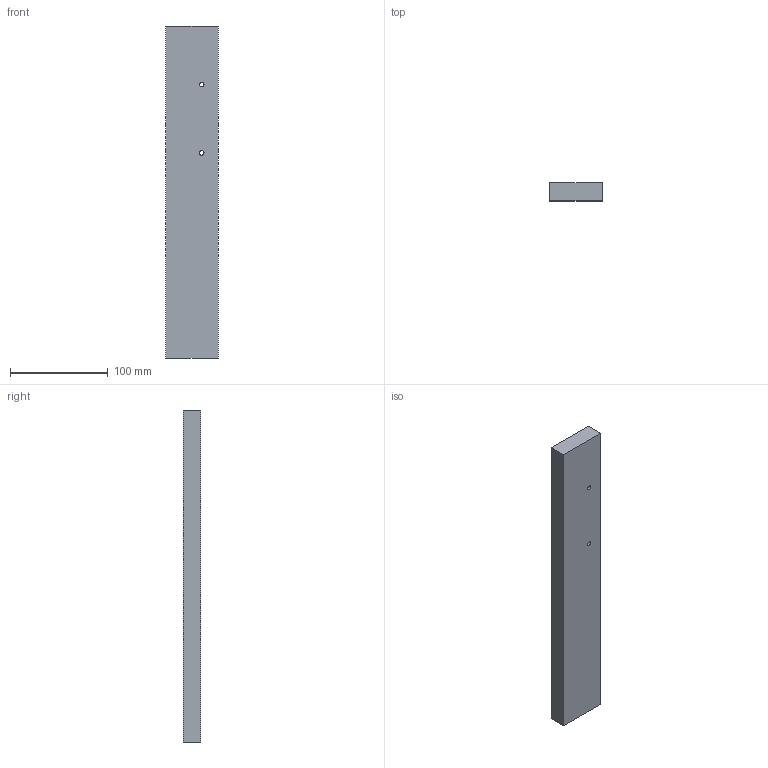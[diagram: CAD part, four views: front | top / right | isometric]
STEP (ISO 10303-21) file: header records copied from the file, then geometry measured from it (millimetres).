
FILE_DESCRIPTION(('Open CASCADE Model'),'2;1');
FILE_NAME('Open CASCADE Shape Model','2026-10-13T11:47:38',('Author'),( 'Open CASCADE'),'Open CASCADE STEP processor 7.8','Open CASCADE 7.8' ,'Unknown');
FILE_SCHEMA(('AUTOMOTIVE_DESIGN { 1 0 10303 214 1 1 1 1 }'));
Length unit declared in the file: millimetre
Products named in the file (1): Open CASCADE STEP translator 7.8 128
Bounding box: 54 x 18 x 340 mm (x, y, z)
Volume: 329881.7 mm3; surface area: 51357.8 mm2
Topology: 1 solids, 1 shells, 8 faces, 18 edges, 12 vertices
Faces by surface type: plane 6, cylinder 2
Full cylindrical faces by diameter (mm): 4.6 x2
Entity records: 490 total; most frequent: CARTESIAN_POINT 99, DIRECTION 72, LINE 46, VECTOR 46, ORIENTED_EDGE 36, PCURVE 36, DEFINITIONAL_REPRESENTATION 36, EDGE_CURVE 18
